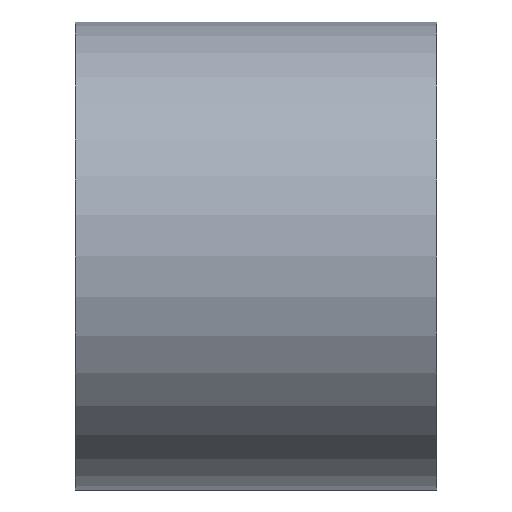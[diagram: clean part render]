
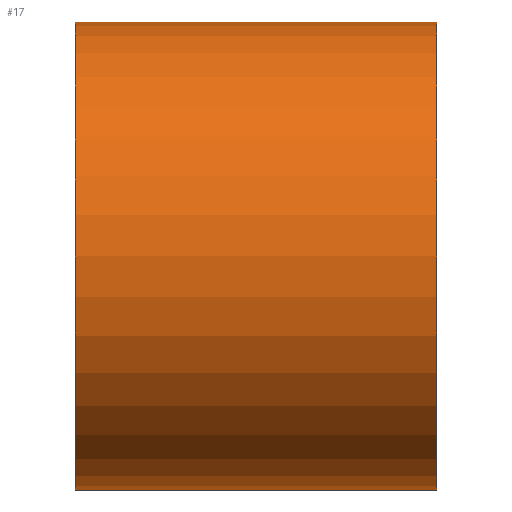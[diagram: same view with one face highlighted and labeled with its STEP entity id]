
A CAD part, front view. The second image highlights one B-rep face of the part: STEP entity #17.
In plain terms, the highlighted cylindrical face has radius 38.1 mm (diameter 76.2 mm), a full revolution.
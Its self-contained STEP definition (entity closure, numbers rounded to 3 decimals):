
#17 = ADVANCED_FACE('',(#18),#32,.T.);
#18 = FACE_BOUND('',#19,.F.);
#19 = EDGE_LOOP('',(#20,#50,#77,#78));
#20 = ORIENTED_EDGE('',*,*,#21,.T.);
#21 = EDGE_CURVE('',#22,#24,#26,.T.);
#22 = VERTEX_POINT('',#23);
#23 = CARTESIAN_POINT('',(-25.4,38.1,0.));
#24 = VERTEX_POINT('',#25);
#25 = CARTESIAN_POINT('',(33.4,38.1,0.));
#26 = SEAM_CURVE('',#27,(#31,#43),.PCURVE_S1.);
#27 = LINE('',#28,#29);
#28 = CARTESIAN_POINT('',(-25.4,38.1,0.));
#29 = VECTOR('',#30,1.);
#30 = DIRECTION('',(1.,0.,0.));
#31 = PCURVE('',#32,#37);
#32 = CYLINDRICAL_SURFACE('',#33,38.1);
#33 = AXIS2_PLACEMENT_3D('',#34,#35,#36);
#34 = CARTESIAN_POINT('',(-25.4,0.,0.));
#35 = DIRECTION('',(-1.,-0.,-0.));
#36 = DIRECTION('',(0.,1.,0.));
#37 = DEFINITIONAL_REPRESENTATION('',(#38),#42);
#38 = LINE('',#39,#40);
#39 = CARTESIAN_POINT('',(-0.,0.));
#40 = VECTOR('',#41,1.);
#41 = DIRECTION('',(-0.,-1.));
#42 = ( GEOMETRIC_REPRESENTATION_CONTEXT(2) 
PARAMETRIC_REPRESENTATION_CONTEXT() REPRESENTATION_CONTEXT('2D SPACE',''
  ) );
#43 = PCURVE('',#32,#44);
#44 = DEFINITIONAL_REPRESENTATION('',(#45),#49);
#45 = LINE('',#46,#47);
#46 = CARTESIAN_POINT('',(-6.283,0.));
#47 = VECTOR('',#48,1.);
#48 = DIRECTION('',(-0.,-1.));
#49 = ( GEOMETRIC_REPRESENTATION_CONTEXT(2) 
PARAMETRIC_REPRESENTATION_CONTEXT() REPRESENTATION_CONTEXT('2D SPACE',''
  ) );
#50 = ORIENTED_EDGE('',*,*,#51,.T.);
#51 = EDGE_CURVE('',#24,#24,#52,.T.);
#52 = SURFACE_CURVE('',#53,(#58,#65),.PCURVE_S1.);
#53 = CIRCLE('',#54,38.1);
#54 = AXIS2_PLACEMENT_3D('',#55,#56,#57);
#55 = CARTESIAN_POINT('',(33.4,0.,0.));
#56 = DIRECTION('',(1.,0.,0.));
#57 = DIRECTION('',(0.,1.,0.));
#58 = PCURVE('',#32,#59);
#59 = DEFINITIONAL_REPRESENTATION('',(#60),#64);
#60 = LINE('',#61,#62);
#61 = CARTESIAN_POINT('',(-0.,-58.8));
#62 = VECTOR('',#63,1.);
#63 = DIRECTION('',(-1.,0.));
#64 = ( GEOMETRIC_REPRESENTATION_CONTEXT(2) 
PARAMETRIC_REPRESENTATION_CONTEXT() REPRESENTATION_CONTEXT('2D SPACE',''
  ) );
#65 = PCURVE('',#66,#71);
#66 = PLANE('',#67);
#67 = AXIS2_PLACEMENT_3D('',#68,#69,#70);
#68 = CARTESIAN_POINT('',(33.4,0.,0.));
#69 = DIRECTION('',(1.,0.,0.));
#70 = DIRECTION('',(-0.,0.,1.));
#71 = DEFINITIONAL_REPRESENTATION('',(#72),#76);
#72 = CIRCLE('',#73,38.1);
#73 = AXIS2_PLACEMENT_2D('',#74,#75);
#74 = CARTESIAN_POINT('',(0.,0.));
#75 = DIRECTION('',(0.,-1.));
#76 = ( GEOMETRIC_REPRESENTATION_CONTEXT(2) 
PARAMETRIC_REPRESENTATION_CONTEXT() REPRESENTATION_CONTEXT('2D SPACE',''
  ) );
#77 = ORIENTED_EDGE('',*,*,#21,.F.);
#78 = ORIENTED_EDGE('',*,*,#79,.F.);
#79 = EDGE_CURVE('',#22,#22,#80,.T.);
#80 = SURFACE_CURVE('',#81,(#86,#93),.PCURVE_S1.);
#81 = CIRCLE('',#82,38.1);
#82 = AXIS2_PLACEMENT_3D('',#83,#84,#85);
#83 = CARTESIAN_POINT('',(-25.4,0.,0.));
#84 = DIRECTION('',(1.,0.,0.));
#85 = DIRECTION('',(0.,1.,0.));
#86 = PCURVE('',#32,#87);
#87 = DEFINITIONAL_REPRESENTATION('',(#88),#92);
#88 = LINE('',#89,#90);
#89 = CARTESIAN_POINT('',(-0.,0.));
#90 = VECTOR('',#91,1.);
#91 = DIRECTION('',(-1.,0.));
#92 = ( GEOMETRIC_REPRESENTATION_CONTEXT(2) 
PARAMETRIC_REPRESENTATION_CONTEXT() REPRESENTATION_CONTEXT('2D SPACE',''
  ) );
#93 = PCURVE('',#94,#99);
#94 = PLANE('',#95);
#95 = AXIS2_PLACEMENT_3D('',#96,#97,#98);
#96 = CARTESIAN_POINT('',(-25.4,0.,0.)
  );
#97 = DIRECTION('',(1.,0.,0.));
#98 = DIRECTION('',(-0.,0.,1.));
#99 = DEFINITIONAL_REPRESENTATION('',(#100),#104);
#100 = CIRCLE('',#101,38.1);
#101 = AXIS2_PLACEMENT_2D('',#102,#103);
#102 = CARTESIAN_POINT('',(0.,0.));
#103 = DIRECTION('',(0.,-1.));
#104 = ( GEOMETRIC_REPRESENTATION_CONTEXT(2) 
PARAMETRIC_REPRESENTATION_CONTEXT() REPRESENTATION_CONTEXT('2D SPACE',''
  ) );
